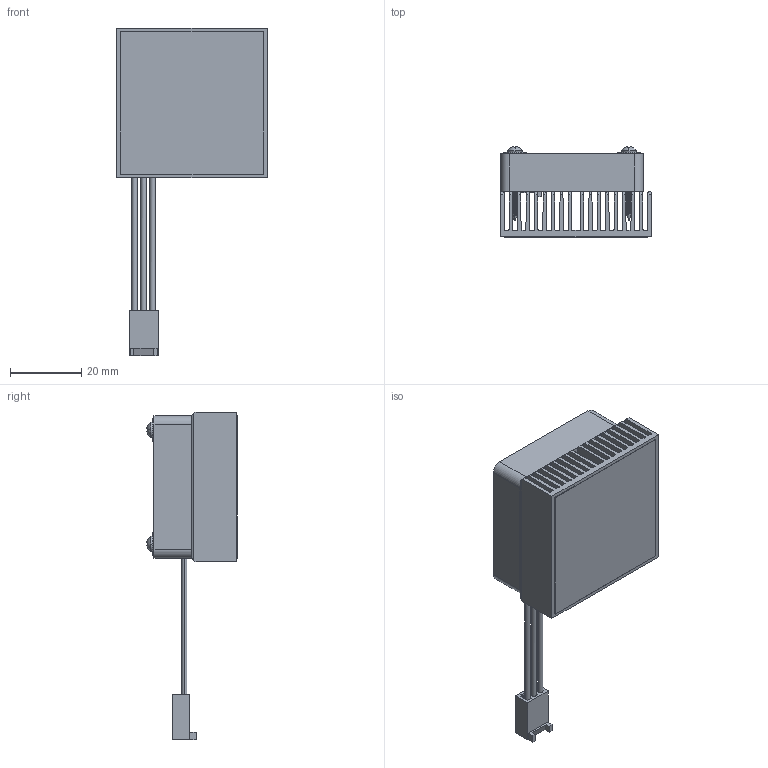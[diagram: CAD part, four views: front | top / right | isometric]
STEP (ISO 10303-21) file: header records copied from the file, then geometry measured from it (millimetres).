
FILE_DESCRIPTION (( 'STEP AP214' ), '1' );
FILE_NAME ('FI42.5-1.7.STEP', '2023-03-08T17:31:15', ( '' ), ( '' ), 'SwSTEP 2.0', 'SolidWorks 2020', '' );
FILE_SCHEMA (( 'AUTOMOTIVE_DESIGN' ));
Length unit declared in the file: millimetre
Products named in the file (1): FI42.5-1.7
Bounding box: 42.3 x 25.33 x 92 mm (x, y, z)
Volume: 19215.3 mm3; surface area: 32836.9 mm2
Topology: 11 solids, 11 shells, 1007 faces, 2931 edges, 1948 vertices
Faces by surface type: cylinder 454, plane 307, bspline 194, cone 36, sphere 8, torus 8
Entity records: 55354 total; most frequent: CARTESIAN_POINT 21315, ORIENTED_EDGE 5862, DIRECTION 3731, EDGE_CURVE 2931, VERTEX_POINT 1948, LINE 1355, VECTOR 1355, AXIS2_PLACEMENT_3D 1188
